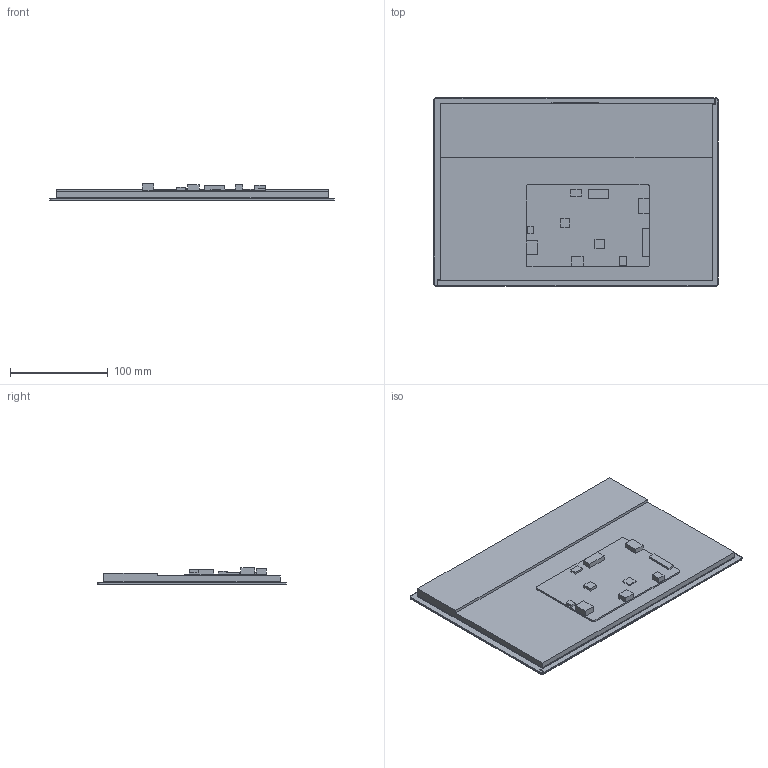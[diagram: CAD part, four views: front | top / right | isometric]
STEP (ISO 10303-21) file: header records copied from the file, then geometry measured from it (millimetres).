
FILE_DESCRIPTION(/* description */ (''),/* implementation_level */ '2;1');
FILE_NAME(/* name */ 'b101YY97BUV41-YC101G6181V20.stp',/* time_stamp */ '2025-04-23T14:44:09+08:00',/* author */ (''),/* organization */ (''),/* preprocessor_version */ 'ST-DEVELOPER v16',/* originating_system */ 'SIEMENS PLM Software NX 10.0',/* authorisation */ '');
FILE_SCHEMA (('AP203_CONFIGURATION_CONTROLLED_3D_DESIGN_OF_MECHANICAL_PARTS_AND_ASSEMBLIES_MIM_LF { 1 0 10303 403 2 1 2}'));
Length unit declared in the file: millimetre
Products named in the file (1): b101YY97BUV41-YC101G6181V20
Bounding box: 291.12 x 193.2 x 16.72 mm (x, y, z)
Volume: 451643.9 mm3; surface area: 359017.5 mm2
Topology: 18 solids, 18 shells, 135 faces, 299 edges, 200 vertices
Faces by surface type: plane 129, extrusion 6
Entity records: 4631 total; most frequent: CARTESIAN_POINT 1295, ORIENTED_EDGE 598, DIRECTION 408, EDGE_CURVE 299, VERTEX_POINT 200, VECTOR 148, LINE 142, EDGE_LOOP 141
